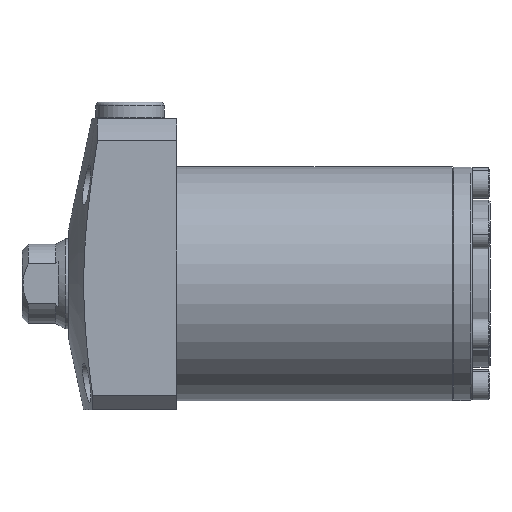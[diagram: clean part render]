
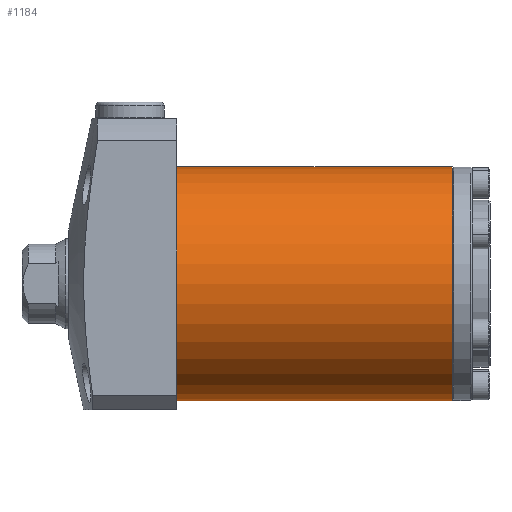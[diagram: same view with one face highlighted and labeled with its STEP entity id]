
A CAD part, left-side view. The second image highlights one B-rep face of the part: STEP entity #1184.
In plain terms, the highlighted cylindrical face has radius 32.5 mm (diameter 65 mm), a partial arc.
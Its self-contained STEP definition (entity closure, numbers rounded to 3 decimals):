
#15 = EDGE_LOOP ( 'NONE', ( #1434, #1435, #1436, #1437 ) ) ;
#765 = VECTOR ( 'NONE', #1769, 1000. ) ;
#766 = VECTOR ( 'NONE', #1775, 1000. ) ;
#830 = CIRCLE ( 'NONE', #833, 32.5 ) ;
#833 = AXIS2_PLACEMENT_3D ( 'NONE', #2140, #2141, #2142 ) ;
#899 = AXIS2_PLACEMENT_3D ( 'NONE', #2534, #2528, #2536 ) ;
#937 = CIRCLE ( 'NONE', #939, 32.5 ) ;
#939 = AXIS2_PLACEMENT_3D ( 'NONE', #2706, #2707, #2708 ) ;
#1080 = EDGE_CURVE ( 'NONE', #1539, #1544, #1765, .T. ) ;
#1082 = EDGE_CURVE ( 'NONE', #1538, #1543, #1770, .T. ) ;
#1134 = EDGE_CURVE ( 'NONE', #1544, #1543, #830, .T. ) ;
#1184 = ADVANCED_FACE ( 'NONE', ( #2533 ), #2535, .T. ) ;
#1220 = EDGE_CURVE ( 'NONE', #1539, #1538, #937, .T. ) ;
#1434 = ORIENTED_EDGE ( 'NONE', *, *, #1080, .F. ) ;
#1435 = ORIENTED_EDGE ( 'NONE', *, *, #1220, .T. ) ;
#1436 = ORIENTED_EDGE ( 'NONE', *, *, #1082, .T. ) ;
#1437 = ORIENTED_EDGE ( 'NONE', *, *, #1134, .F. ) ;
#1538 = VERTEX_POINT ( 'NONE', #2856 ) ;
#1539 = VERTEX_POINT ( 'NONE', #2857 ) ;
#1543 = VERTEX_POINT ( 'NONE', #2861 ) ;
#1544 = VERTEX_POINT ( 'NONE', #2862 ) ;
#1762 = CARTESIAN_POINT ( 'NONE',  ( 0., -76.5, -32.5 ) ) ;
#1764 = CARTESIAN_POINT ( 'NONE',  ( 0., -76.5, 32.5 ) ) ;
#1765 = LINE ( 'NONE', #1762, #765 ) ;
#1769 = DIRECTION ( 'NONE',  ( 0., 1., 0. ) ) ;
#1770 = LINE ( 'NONE', #1764, #766 ) ;
#1775 = DIRECTION ( 'NONE',  ( 0., 1., 0. ) ) ;
#2140 = CARTESIAN_POINT ( 'NONE',  ( 0., 0., 0. ) ) ;
#2141 = DIRECTION ( 'NONE',  ( 0., 1., 0. ) ) ;
#2142 = DIRECTION ( 'NONE',  ( 0., 0., 1. ) ) ;
#2528 = DIRECTION ( 'NONE',  ( 0., 1., 0. ) ) ;
#2533 = FACE_OUTER_BOUND ( 'NONE', #15, .T. ) ;
#2534 = CARTESIAN_POINT ( 'NONE',  ( 0., -76.5, 0. ) ) ;
#2535 = CYLINDRICAL_SURFACE ( 'NONE', #899, 32.5 ) ;
#2536 = DIRECTION ( 'NONE',  ( 0., 0., 1. ) ) ;
#2706 = CARTESIAN_POINT ( 'NONE',  ( 0., -76.5, 0. ) ) ;
#2707 = DIRECTION ( 'NONE',  ( 0., 1., 0. ) ) ;
#2708 = DIRECTION ( 'NONE',  ( 0., 0., 1. ) ) ;
#2856 = CARTESIAN_POINT ( 'NONE',  ( 0., -76.5, 32.5 ) ) ;
#2857 = CARTESIAN_POINT ( 'NONE',  ( 0., -76.5, -32.5 ) ) ;
#2861 = CARTESIAN_POINT ( 'NONE',  ( 0., 0., 32.5 ) ) ;
#2862 = CARTESIAN_POINT ( 'NONE',  ( 0., 0., -32.5 ) ) ;
